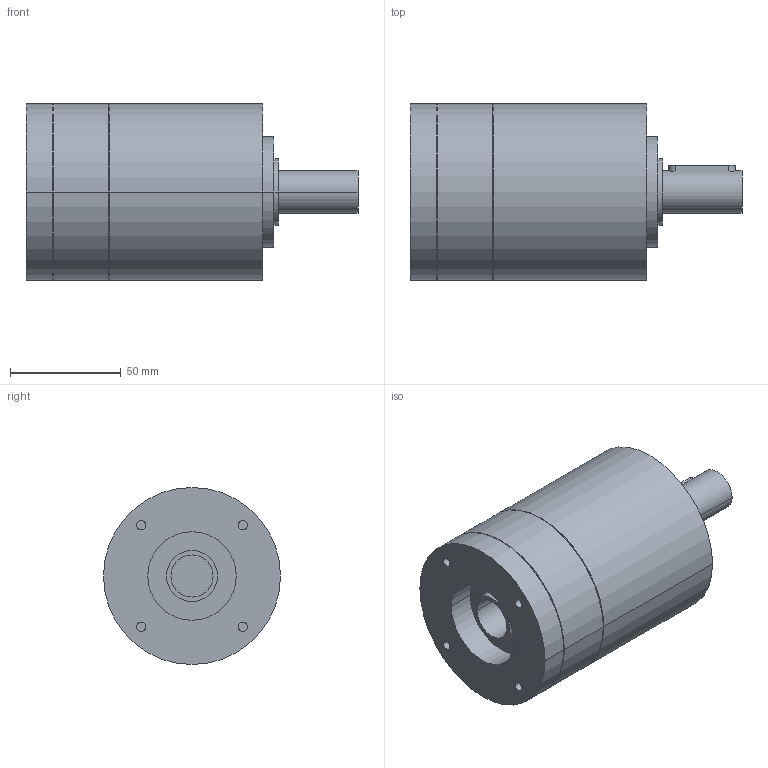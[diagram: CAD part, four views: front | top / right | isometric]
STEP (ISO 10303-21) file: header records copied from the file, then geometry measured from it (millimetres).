
FILE_DESCRIPTION(('CoCreate Modeling STEP Export'),'2;1');
FILE_NAME('GPR100_ig-3-4-5-6_19_B14_19_P26.stp','2014-08-26T10:08:53',(''),(''),'CoCreate Modeling STEP processor for AP214 (Solid Model)','CoCreate Modeling 16.00C 25-Feb-2009 (C) Parametric Technology GmbH','');
FILE_SCHEMA(('AUTOMOTIVE_DESIGN { 1 0 10303 214 1 1 1 1 }'));
Length unit declared in the file: millimetre
Products named in the file (2): GPR100_ig-3-4-5-6_19_B14_19_P26
Assembly tree (1 placements, depth 2):
  GPR100_ig-3-4-5-6_19_B14_19_P26
    GPR100_ig-3-4-5-6_19_B14_19_P26
Bounding box: 150 x 80 x 80 mm (x, y, z)
Volume: 534178.4 mm3; surface area: 46747.7 mm2
Topology: 1 solids, 1 shells, 65 faces, 158 edges, 110 vertices
Faces by surface type: cylinder 38, plane 21, cone 6
Entity records: 1631 total; most frequent: ORIENTED_EDGE 312, CARTESIAN_POINT 305, DIRECTION 212, EDGE_CURVE 156, VERTEX_POINT 110, EDGE_LOOP 82, AXIS2_PLACEMENT_3D 81, FACE_OUTER_BOUND 65
